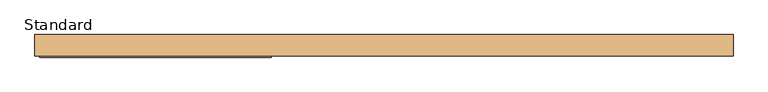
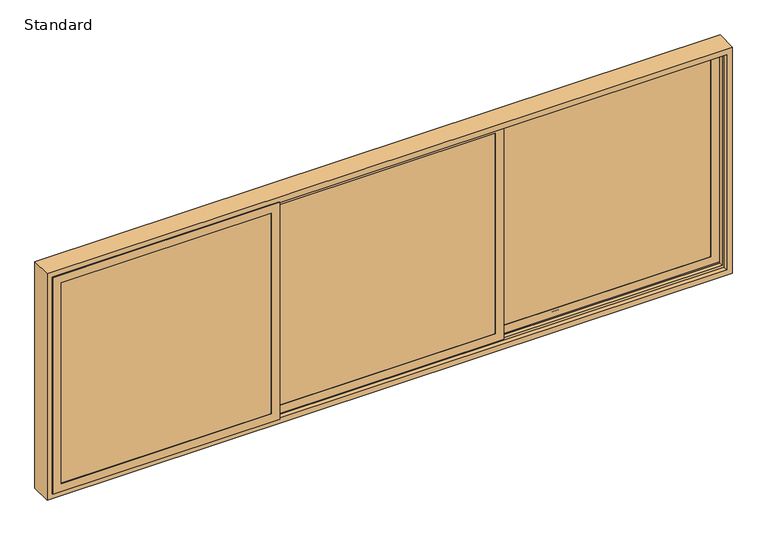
"""IFC4 building model written with IfcOpenShell, lengths in millimetres: door geometry, SMARTS_Visoglide Plus : Standard."""

from ifc_helpers import new_model, si_unit, frame, origin, place, context, project, spatial, polyline, outline, extrude, faceted_brep, source, transform, mapped, element, save


def standard_4c101147(model_context):
    return source(origin(), model_context, "Body", "SolidModel", [
        extrude(outline(polyline([(2892.5, 67.0), (2892.5, 63.0), (1024.8333333, 63.0), (1024.8333333, 67.0), (2892.5, 67.0)])), frame((0.0, 0.0, 907.5), z_axis=(0.0, 0.0, 1.0), x_axis=(1.0, 0.0, 0.0)), (0.0, 0.0, 1.0), 1885.0),
        extrude(outline(polyline([(2892.5, 47.0), (2892.5, 43.0), (1024.8333333, 43.0), (1024.8333333, 47.0), (2892.5, 47.0)])), frame((0.0, 0.0, 907.5), z_axis=(0.0, 0.0, 1.0), x_axis=(1.0, 0.0, 0.0)), (0.0, 0.0, 1.0), 1885.0),
        extrude(outline(polyline([(2792.5, 2892.5), (2792.5, 1024.8333333), (907.5, 1024.8333333), (907.5, 2892.5), (2792.5, 2892.5)]), holes=[polyline([(2782.5, 1034.8333333), (2782.5, 2882.5), (917.5, 2882.5), (917.5, 1034.8333333), (2782.5, 1034.8333333)])]), frame((0.0, 47.0, 0.0), z_axis=(0.0, 1.0, 0.0), x_axis=(0.0, 0.0, 1.0)), (0.0, 0.0, 1.0), 16.0),
        extrude(outline(polyline([(902.5, 2897.5), (2797.5, 2897.5), (2797.5, 1019.8333333), (902.5, 1019.8333333), (902.5, 2897.5)]), holes=[polyline([(2777.5, 2877.5), (922.5, 2877.5), (922.5, 1039.8333333), (2777.5, 1039.8333333), (2777.5, 2877.5)])]), frame((0.0, 74.0102223, 0.0), z_axis=(0.0, 1.0, 0.0), x_axis=(0.0, 0.0, 1.0)), (0.0, 0.0, 1.0), 11.9897777),
        extrude(outline(polyline([(848.5, 2951.5), (2851.5, 2951.5), (2851.5, 965.8333333), (848.5, 965.8333333), (848.5, 2951.5)]), holes=[polyline([(2797.5, 2897.5), (902.5, 2897.5), (902.5, 1019.8333333), (2797.5, 1019.8333333), (2797.5, 2897.5)])]), frame((0.0, 62.0, 0.0), z_axis=(0.0, 1.0, 0.0), x_axis=(0.0, 0.0, 1.0)), (0.0, 0.0, 1.0), 24.0),
        faceted_brep([(2877.5, 39.0, 2777.5), (2877.5, 39.0, 922.5), (2877.5, 35.0, 922.5), (2877.5, 35.0, 2777.5), (2900.5, 62.0, 2800.5), (2900.5, 62.0, 899.5), (2900.5, 39.0, 899.5), (2900.5, 39.0, 2800.5), (2951.5, 35.0, 2851.5), (2951.5, 35.0, 848.5), (2951.5, 62.0, 848.5), (2951.5, 62.0, 2851.5), (1039.8333333, 39.0, 922.5), (1039.8333333, 35.0, 922.5), (1016.8333333, 62.0, 899.5), (1016.8333333, 39.0, 899.5), (965.8333333, 35.0, 848.5), (965.8333333, 62.0, 848.5), (1039.8333333, 39.0, 2777.5), (1039.8333333, 35.0, 2777.5), (1016.8333333, 62.0, 2800.5), (1016.8333333, 39.0, 2800.5), (965.8333333, 35.0, 2851.5), (965.8333333, 62.0, 2851.5)], [[[0, 1, 2, 3]], [[4, 5, 6, 7]], [[8, 9, 10, 11]], [[1, 12, 13, 2]], [[5, 14, 15, 6]], [[9, 16, 17, 10]], [[12, 18, 19, 13]], [[14, 20, 21, 15]], [[16, 22, 23, 17]], [[9, 8, 22, 16], [3, 2, 13, 19]], [[18, 0, 3, 19]], [[7, 6, 15, 21], [1, 0, 18, 12]], [[20, 4, 7, 21]], [[11, 10, 17, 23], [5, 4, 20, 14]], [[22, 8, 11, 23]]]),
        extrude(outline(polyline([(971.8333333, 0.0), (971.8333333, -4.0), (-971.8333333, -4.0), (-971.8333333, 0.0), (971.8333333, 0.0)])), frame((0.0, 0.0, 907.5), z_axis=(0.0, 0.0, 1.0), x_axis=(1.0, 0.0, 0.0)), (0.0, 0.0, 1.0), 1885.0),
        extrude(outline(polyline([(971.8333333, -20.0), (971.8333333, -24.0), (-971.8333333, -24.0), (-971.8333333, -20.0), (971.8333333, -20.0)])), frame((0.0, 0.0, 907.5), z_axis=(0.0, 0.0, 1.0), x_axis=(1.0, 0.0, 0.0)), (0.0, 0.0, 1.0), 1885.0),
        extrude(outline(polyline([(2792.5, 971.8333333), (2792.5, -971.8333333), (907.5, -971.8333333), (907.5, 971.8333333), (2792.5, 971.8333333)]), holes=[polyline([(2782.5, -961.8333333), (2782.5, 961.8333333), (917.5, 961.8333333), (917.5, -961.8333333), (2782.5, -961.8333333)])]), frame((0.0, -20.0, 0.0), z_axis=(0.0, 1.0, 0.0), x_axis=(0.0, 0.0, 1.0)), (0.0, 0.0, 1.0), 16.0),
        extrude(outline(polyline([(902.5, 976.8333333), (2797.5, 976.8333333), (2797.5, -976.8333333), (902.5, -976.8333333), (902.5, 976.8333333)]), holes=[polyline([(2777.5, 956.8333333), (922.5, 956.8333333), (922.5, -956.8333333), (2777.5, -956.8333333), (2777.5, 956.8333333)])]), frame((0.0, 7.0102223, 0.0), z_axis=(0.0, 1.0, 0.0), x_axis=(0.0, 0.0, 1.0)), (0.0, 0.0, 1.0), 11.9897777),
        extrude(outline(polyline([(848.5, 1030.8333333), (2851.5, 1030.8333333), (2851.5, -1030.8333333), (848.5, -1030.8333333), (848.5, 1030.8333333)]), holes=[polyline([(2797.5, 976.8333333), (902.5, 976.8333333), (902.5, -976.8333333), (2797.5, -976.8333333), (2797.5, 976.8333333)])]), frame((0.0, -5.0, 0.0), z_axis=(0.0, 1.0, 0.0), x_axis=(0.0, 0.0, 1.0)), (0.0, 0.0, 1.0), 24.0),
        faceted_brep([(956.8333333, -28.0, 2777.5), (956.8333333, -28.0, 922.5), (956.8333333, -32.0, 922.5), (956.8333333, -32.0, 2777.5), (979.8333333, -5.0, 2800.5), (979.8333333, -5.0, 899.5), (979.8333333, -28.0, 899.5), (979.8333333, -28.0, 2800.5), (1030.8333333, -32.0, 2851.5), (1030.8333333, -32.0, 848.5), (1030.8333333, -5.0, 848.5), (1030.8333333, -5.0, 2851.5), (-956.8333333, -28.0, 922.5), (-956.8333333, -32.0, 922.5), (-979.8333333, -5.0, 899.5), (-979.8333333, -28.0, 899.5), (-1030.8333333, -32.0, 848.5), (-1030.8333333, -5.0, 848.5), (-956.8333333, -28.0, 2777.5), (-956.8333333, -32.0, 2777.5), (-979.8333333, -5.0, 2800.5), (-979.8333333, -28.0, 2800.5), (-1030.8333333, -32.0, 2851.5), (-1030.8333333, -5.0, 2851.5)], [[[0, 1, 2, 3]], [[4, 5, 6, 7]], [[8, 9, 10, 11]], [[1, 12, 13, 2]], [[5, 14, 15, 6]], [[9, 16, 17, 10]], [[12, 18, 19, 13]], [[14, 20, 21, 15]], [[16, 22, 23, 17]], [[9, 8, 22, 16], [3, 2, 13, 19]], [[18, 0, 3, 19]], [[7, 6, 15, 21], [1, 0, 18, 12]], [[20, 4, 7, 21]], [[11, 10, 17, 23], [5, 4, 20, 14]], [[22, 8, 11, 23]]]),
        extrude(outline(polyline([(-1024.8333333, -67.0), (-1024.8333333, -71.0), (-2892.5, -71.0), (-2892.5, -67.0), (-1024.8333333, -67.0)])), frame((0.0, 0.0, 907.5), z_axis=(0.0, 0.0, 1.0), x_axis=(1.0, 0.0, 0.0)), (0.0, 0.0, 1.0), 1885.0),
        extrude(outline(polyline([(-1024.8333333, -87.0), (-1024.8333333, -91.0), (-2892.5, -91.0), (-2892.5, -87.0), (-1024.8333333, -87.0)])), frame((0.0, 0.0, 907.5), z_axis=(0.0, 0.0, 1.0), x_axis=(1.0, 0.0, 0.0)), (0.0, 0.0, 1.0), 1885.0),
        extrude(outline(polyline([(2792.5, -1024.8333333), (2792.5, -2892.5), (907.5, -2892.5), (907.5, -1024.8333333), (2792.5, -1024.8333333)]), holes=[polyline([(2782.5, -2882.5), (2782.5, -1034.8333333), (917.5, -1034.8333333), (917.5, -2882.5), (2782.5, -2882.5)])]), frame((0.0, -87.0, 0.0), z_axis=(0.0, 1.0, 0.0), x_axis=(0.0, 0.0, 1.0)), (0.0, 0.0, 1.0), 16.0),
        extrude(outline(polyline([(902.5, -1019.8333333), (2797.5, -1019.8333333), (2797.5, -2897.5), (902.5, -2897.5), (902.5, -1019.8333333)]), holes=[polyline([(2777.5, -1039.8333333), (922.5, -1039.8333333), (922.5, -2877.5), (2777.5, -2877.5), (2777.5, -1039.8333333)])]), frame((0.0, -59.9897777, 0.0), z_axis=(0.0, 1.0, 0.0), x_axis=(0.0, 0.0, 1.0)), (0.0, 0.0, 1.0), 11.9897777),
        extrude(outline(polyline([(848.5, -965.8333333), (2851.5, -965.8333333), (2851.5, -2951.5), (848.5, -2951.5), (848.5, -965.8333333)]), holes=[polyline([(2797.5, -1019.8333333), (902.5, -1019.8333333), (902.5, -2897.5), (2797.5, -2897.5), (2797.5, -1019.8333333)])]), frame((0.0, -72.0, 0.0), z_axis=(0.0, 1.0, 0.0), x_axis=(0.0, 0.0, 1.0)), (0.0, 0.0, 1.0), 24.0),
        faceted_brep([(-1039.8333333, -95.0, 2777.5), (-1039.8333333, -95.0, 922.5), (-1039.8333333, -99.0, 922.5), (-1039.8333333, -99.0, 2777.5), (-1016.8333333, -72.0, 2800.5), (-1016.8333333, -72.0, 899.5), (-1016.8333333, -95.0, 899.5), (-1016.8333333, -95.0, 2800.5), (-965.8333333, -99.0, 2851.5), (-965.8333333, -99.0, 848.5), (-965.8333333, -72.0, 848.5), (-965.8333333, -72.0, 2851.5), (-2877.5, -95.0, 922.5), (-2877.5, -99.0, 922.5), (-2900.5, -72.0, 899.5), (-2900.5, -95.0, 899.5), (-2951.5, -99.0, 848.5), (-2951.5, -72.0, 848.5), (-2877.5, -95.0, 2777.5), (-2877.5, -99.0, 2777.5), (-2900.5, -72.0, 2800.5), (-2900.5, -95.0, 2800.5), (-2951.5, -99.0, 2851.5), (-2951.5, -72.0, 2851.5)], [[[0, 1, 2, 3]], [[4, 5, 6, 7]], [[8, 9, 10, 11]], [[1, 12, 13, 2]], [[5, 14, 15, 6]], [[9, 16, 17, 10]], [[12, 18, 19, 13]], [[14, 20, 21, 15]], [[16, 22, 23, 17]], [[9, 8, 22, 16], [3, 2, 13, 19]], [[18, 0, 3, 19]], [[7, 6, 15, 21], [1, 0, 18, 12]], [[20, 4, 7, 21]], [[11, 10, 17, 23], [5, 4, 20, 14]], [[22, 8, 11, 23]]]),
        faceted_brep([(2995.0, 95.0, 2895.0), (-2995.0, 95.0, 2895.0), (-2995.0, -89.39785, 2895.0), (2995.0, -89.39785, 2895.0), (2943.1999999, 91.0, 2843.1999999), (-2943.1999999, 91.0, 2843.1999999), (-2943.1999999, 95.0, 2843.1999999), (2943.1999999, 95.0, 2843.1999999), (2969.1999999, 76.3, 2869.1999999), (-2969.1999999, 76.3, 2869.1999999), (-2969.1999999, 91.0, 2869.1999999), (2969.1999999, 91.0, 2869.1999999), (2943.1999999, 43.7842251, 2843.1999999), (-2943.1999999, 43.7842251, 2843.1999999), (-2943.1999999, 76.3, 2843.1999999), (2943.1999999, 76.3, 2843.1999999), (2969.1999999, 9.7842251, 2869.1999999), (-2969.1999999, 9.7842251, 2869.1999999), (-2969.1999999, 43.7842251, 2869.1999999), (2969.1999999, 43.7842251, 2869.1999999), (2943.1999999, -22.7989407, 2843.1999999), (-2943.1999999, -22.7989407, 2843.1999999), (-2943.1999999, 9.7842251, 2843.1999999), (2943.1999999, 9.7842251, 2843.1999999), (2969.2, -56.7989407, 2869.2), (-2969.2, -56.7989407, 2869.2), (-2969.2, -22.7989407, 2869.2), (2969.2, -22.7989407, 2869.2), (2943.0, -89.39785, 2843.0), (-2943.0, -89.39785, 2843.0), (-2943.0, -56.7989407, 2843.0), (2943.0, -56.7989407, 2843.0), (-2995.0, 95.0, 805.0), (-2995.0, -89.39785, 805.0), (-2943.1999999, 91.0, 856.8000001), (-2943.1999999, 95.0, 856.8000001), (-2969.1999999, 76.3, 830.8000001), (-2969.1999999, 91.0, 830.8000001), (-2943.1999999, 43.7842251, 856.8000001), (-2943.1999999, 76.3, 856.8000001), (-2969.1999999, 9.7842251, 830.8000001), (-2969.1999999, 43.7842251, 830.8000001), (-2943.1999999, -22.7989407, 856.8000001), (-2943.1999999, 9.7842251, 856.8000001), (-2969.2, -56.7989407, 830.8), (-2969.2, -22.7989407, 830.8), (-2943.0, -89.39785, 857.0), (-2943.0, -56.7989407, 857.0), (2995.0, 95.0, 805.0), (2995.0, -89.39785, 805.0), (2943.1999999, 91.0, 856.8000001), (2943.1999999, 95.0, 856.8000001), (2969.1999999, 76.3, 830.8000001), (2969.1999999, 91.0, 830.8000001), (2943.1999999, 43.7842251, 856.8000001), (2943.1999999, 76.3, 856.8000001), (2969.1999999, 9.7842251, 830.8000001), (2969.1999999, 43.7842251, 830.8000001), (2943.1999999, -22.7989407, 856.8000001), (2943.1999999, 9.7842251, 856.8000001), (2969.2, -56.7989407, 830.8), (2969.2, -22.7989407, 830.8), (2943.0, -89.39785, 857.0), (2943.0, -56.7989407, 857.0)], [[[0, 1, 2, 3]], [[4, 5, 6, 7]], [[8, 9, 10, 11]], [[12, 13, 14, 15]], [[16, 17, 18, 19]], [[20, 21, 22, 23]], [[24, 25, 26, 27]], [[28, 29, 30, 31]], [[1, 32, 33, 2]], [[5, 34, 35, 6]], [[9, 36, 37, 10]], [[13, 38, 39, 14]], [[17, 40, 41, 18]], [[21, 42, 43, 22]], [[25, 44, 45, 26]], [[29, 46, 47, 30]], [[32, 48, 49, 33]], [[34, 50, 51, 35]], [[36, 52, 53, 37]], [[38, 54, 55, 39]], [[40, 56, 57, 41]], [[42, 58, 59, 43]], [[44, 60, 61, 45]], [[46, 62, 63, 47]], [[3, 2, 33, 49], [29, 28, 62, 46]], [[48, 0, 3, 49]], [[1, 0, 48, 32], [7, 6, 35, 51]], [[50, 4, 7, 51]], [[11, 10, 37, 53], [5, 4, 50, 34]], [[52, 8, 11, 53]], [[9, 8, 52, 36], [15, 14, 39, 55]], [[54, 12, 15, 55]], [[19, 18, 41, 57], [13, 12, 54, 38]], [[56, 16, 19, 57]], [[17, 16, 56, 40], [23, 22, 43, 59]], [[58, 20, 23, 59]], [[27, 26, 45, 61], [21, 20, 58, 42]], [[60, 24, 27, 61]], [[25, 24, 60, 44], [31, 30, 47, 63]], [[62, 28, 31, 63]]]),
    ])


if __name__ == "__main__":
    model = new_model("IFC4")
    model_context = context("Model", 3, world=origin())
    ifc_project = project(units=[si_unit("LENGTHUNIT", "METRE", prefix="MILLI")], contexts=[model_context])
    site = spatial("IfcSite", under=ifc_project)
    building = spatial("IfcBuilding", under=site)
    placement = place(None, origin())
    standard_shape = standard_4c101147(model_context)
    element("IfcDoor", 1, ObjectType="SMARTS_Visoglide Plus : Standard", at=placement, inside=building, context=model_context, shape_type="MappedRepresentation", body=[
        mapped(standard_shape, transform((0.0, 0.0, 0.0), x_axis=(1.0, 0.0, 0.0), y_axis=(0.0, 1.0, 0.0), z_axis=(0.0, 0.0, 1.0))),
    ])
    save(model, "model.ifc")
